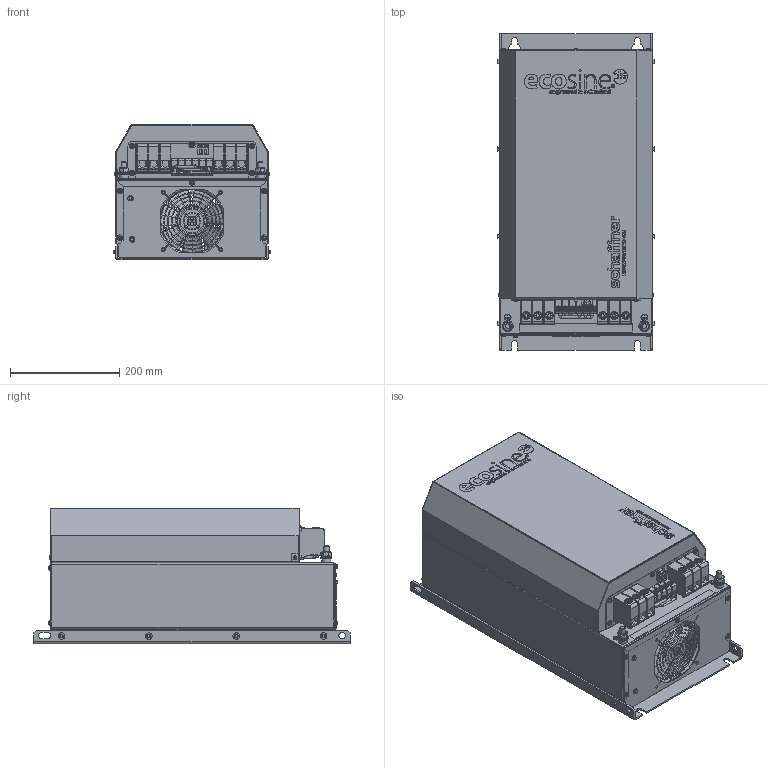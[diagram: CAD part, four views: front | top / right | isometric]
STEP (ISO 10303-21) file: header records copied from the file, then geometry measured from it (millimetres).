
FILE_DESCRIPTION(/* description */ (''),/* implementation_level */ '2;1');
FILE_NAME(/* name */ 'C:\Users\Erika.Jenzer\OneDrive - Schaffner EMV AG\Desktop\Plutus Customer STEP\CUSTOMER IP20 FS D.stp',/* time_stamp */ '2023-05-12T09:06:27+02:00',/* author */ ('erika.jenzer'),/* organization */ (''),/* preprocessor_version */ 'ST-DEVELOPER v18.1',/* originating_system */ 'Autodesk Inventor 2020',/* authorisation */ '');
FILE_SCHEMA (('AUTOMOTIVE_DESIGN { 1 0 10303 214 3 1 1 }'));
Products named in the file (1): CUSTOMER IP20 FS D
Bounding box: 286.53 x 580 x 248.05 mm (x, y, z)
Volume: 1685587.5 mm3; surface area: 1589786 mm2
Topology: 12 solids, 13 shells, 4577 faces, 11985 edges, 7579 vertices
Faces by surface type: plane 2514, cylinder 893, bspline 595, cone 299, torus 168, sphere 108
Full cylindrical faces by diameter (mm): 2.8 x2, 3.2 x4, 3.3 x4, 3.5 x4, 4 x38, 4.3 x8, 4.8 x9, 5 x16, 5.1 x6, 5.5 x21, 6 x6, 6.5 x4, 6.6 x4, 6.8 x6, 7 x8, 7.9 x2, 8 x8, 8.7 x4, 9.188 x2, 9.9 x2, 10 x25, 10.5 x2, 11 x2, 12 x12, 12.7 x3, 15.4 x2, 16.5 x2, 20 x2, 48 x1, 52 x1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
Entity records: 184976 total; most frequent: CARTESIAN_POINT 71595, ORIENTED_EDGE 23818, DIRECTION 21201, EDGE_CURVE 11909, VERTEX_POINT 7603, LINE 7153, VECTOR 7153, AXIS2_PLACEMENT_3D 7024
